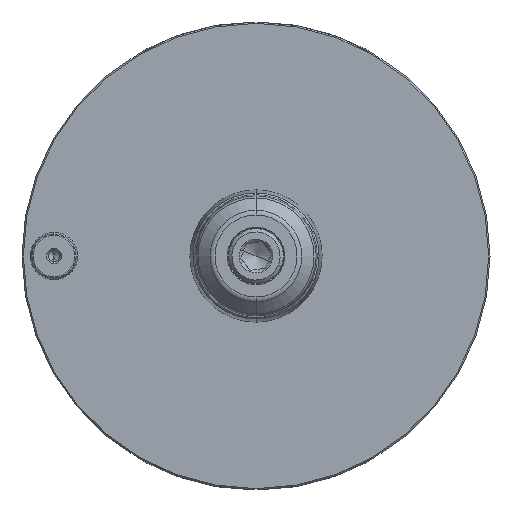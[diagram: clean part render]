
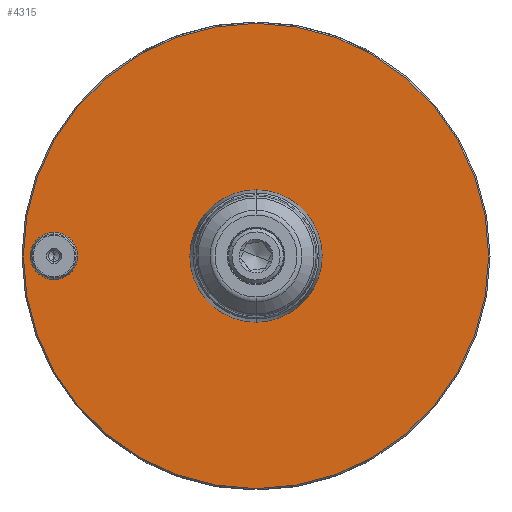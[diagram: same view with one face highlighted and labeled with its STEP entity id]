
A CAD part, left-side view. The second image highlights one B-rep face of the part: STEP entity #4315.
In plain terms, the highlighted planar face has unit normal (-1, 0, 0).
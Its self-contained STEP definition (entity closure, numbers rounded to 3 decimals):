
#216 = CARTESIAN_POINT ( 'NONE',  ( 0., 0., 68.998 ) ) ;
#258 = CARTESIAN_POINT ( 'NONE',  ( 0., 0.102, -69.1 ) ) ;
#592 = DIRECTION ( 'NONE',  ( 0., 0.707, 0.707 ) ) ;
#729 = AXIS2_PLACEMENT_3D ( 'NONE', #19136, #18935, #15881 ) ;
#746 = AXIS2_PLACEMENT_3D ( 'NONE', #2624, #19051, #6939 ) ;
#793 = VECTOR ( 'NONE', #10213, 1000. ) ;
#894 = VECTOR ( 'NONE', #592, 1000. ) ;
#1213 = DIRECTION ( 'NONE',  ( 0., 0., 1. ) ) ;
#1346 = CARTESIAN_POINT ( 'NONE',  ( 0., 60., 0. ) ) ;
#1354 = VERTEX_POINT ( 'NONE', #9269 ) ;
#1514 = DIRECTION ( 'NONE',  ( 0., 0., 1. ) ) ;
#1534 = EDGE_CURVE ( 'NONE', #6203, #4144, #10305, .T. ) ;
#2197 = VERTEX_POINT ( 'NONE', #11930 ) ;
#2284 = ORIENTED_EDGE ( 'NONE', *, *, #7296, .F. ) ;
#2374 = EDGE_CURVE ( 'NONE', #5693, #7685, #18501, .T. ) ;
#2624 = CARTESIAN_POINT ( 'NONE',  ( 0., 0., 0. ) ) ;
#2671 = ORIENTED_EDGE ( 'NONE', *, *, #12996, .T. ) ;
#2770 = DIRECTION ( 'NONE',  ( -1., 0., 0. ) ) ;
#3013 = VERTEX_POINT ( 'NONE', #6387 ) ;
#3060 = AXIS2_PLACEMENT_3D ( 'NONE', #13299, #2770, #1213 ) ;
#3451 = VECTOR ( 'NONE', #12498, 1000. ) ;
#3496 = DIRECTION ( 'NONE',  ( 0., -0.707, -0.707 ) ) ;
#3869 = VECTOR ( 'NONE', #3496, 1000. ) ;
#4144 = VERTEX_POINT ( 'NONE', #14017 ) ;
#4315 = ADVANCED_FACE ( 'NONE', ( #18609, #18815, #6704 ), #8094, .F. ) ;
#4440 = AXIS2_PLACEMENT_3D ( 'NONE', #19281, #12000, #16524 ) ;
#4862 = VERTEX_POINT ( 'NONE', #258 ) ;
#5693 = VERTEX_POINT ( 'NONE', #216 ) ;
#5725 = EDGE_CURVE ( 'NONE', #2197, #5693, #9538, .T. ) ;
#6203 = VERTEX_POINT ( 'NONE', #14683 ) ;
#6387 = CARTESIAN_POINT ( 'NONE',  ( 0., 0., -68.998 ) ) ;
#6615 = CARTESIAN_POINT ( 'NONE',  ( 0., 12.9, 0. ) ) ;
#6704 = FACE_OUTER_BOUND ( 'NONE', #14549, .T. ) ;
#6939 = DIRECTION ( 'NONE',  ( 0., 0., 1. ) ) ;
#7129 = CARTESIAN_POINT ( 'NONE',  ( 0., -0.102, -69.1 ) ) ;
#7296 = EDGE_CURVE ( 'NONE', #4144, #6203, #10048, .T. ) ;
#7324 = CIRCLE ( 'NONE', #14237, 6.4 ) ;
#7337 = CIRCLE ( 'NONE', #746, 69.1 ) ;
#7685 = VERTEX_POINT ( 'NONE', #11005 ) ;
#7846 = ORIENTED_EDGE ( 'NONE', *, *, #12213, .F. ) ;
#8094 = PLANE ( 'NONE',  #14116 ) ;
#8380 = DIRECTION ( 'NONE',  ( 0., 0., -1. ) ) ;
#8509 = VERTEX_POINT ( 'NONE', #7129 ) ;
#8982 = CARTESIAN_POINT ( 'NONE',  ( 0., 0., 0. ) ) ;
#9186 = LINE ( 'NONE', #18441, #3869 ) ;
#9269 = CARTESIAN_POINT ( 'NONE',  ( 0., 60., 6.4 ) ) ;
#9538 = LINE ( 'NONE', #13689, #3451 ) ;
#10044 = EDGE_CURVE ( 'NONE', #14831, #1354, #10712, .T. ) ;
#10048 = CIRCLE ( 'NONE', #11016, 12.9 ) ;
#10213 = DIRECTION ( 'NONE',  ( 0., -0.707, 0.707 ) ) ;
#10305 = CIRCLE ( 'NONE', #3060, 12.9 ) ;
#10664 = DIRECTION ( 'NONE',  ( -1., 0., 0. ) ) ;
#10712 = CIRCLE ( 'NONE', #4440, 6.4 ) ;
#11005 = CARTESIAN_POINT ( 'NONE',  ( 0., 0.102, 69.1 ) ) ;
#11016 = AXIS2_PLACEMENT_3D ( 'NONE', #8982, #14979, #1514 ) ;
#11418 = CIRCLE ( 'NONE', #729, 69.1 ) ;
#11592 = ORIENTED_EDGE ( 'NONE', *, *, #10044, .F. ) ;
#11705 = LINE ( 'NONE', #17416, #793 ) ;
#11930 = CARTESIAN_POINT ( 'NONE',  ( 0., -0.102, 69.1 ) ) ;
#12000 = DIRECTION ( 'NONE',  ( -1., 0., 0. ) ) ;
#12213 = EDGE_CURVE ( 'NONE', #1354, #14831, #7324, .T. ) ;
#12358 = EDGE_CURVE ( 'NONE', #7685, #4862, #11418, .T. ) ;
#12498 = DIRECTION ( 'NONE',  ( 0., 0.707, -0.707 ) ) ;
#12533 = CARTESIAN_POINT ( 'NONE',  ( 0., 60., -6.4 ) ) ;
#12834 = ORIENTED_EDGE ( 'NONE', *, *, #5725, .T. ) ;
#12996 = EDGE_CURVE ( 'NONE', #8509, #2197, #7337, .T. ) ;
#13299 = CARTESIAN_POINT ( 'NONE',  ( 0., 0., 0. ) ) ;
#13689 = CARTESIAN_POINT ( 'NONE',  ( 0., -5.375, 74.373 ) ) ;
#13998 = ORIENTED_EDGE ( 'NONE', *, *, #1534, .F. ) ;
#14017 = CARTESIAN_POINT ( 'NONE',  ( 0., 0., 12.9 ) ) ;
#14116 = AXIS2_PLACEMENT_3D ( 'NONE', #6615, #17250, #8380 ) ;
#14237 = AXIS2_PLACEMENT_3D ( 'NONE', #1346, #10664, #19348 ) ;
#14549 = EDGE_LOOP ( 'NONE', ( #14571, #2671, #12834, #17549, #18967, #15809 ) ) ;
#14571 = ORIENTED_EDGE ( 'NONE', *, *, #14780, .T. ) ;
#14683 = CARTESIAN_POINT ( 'NONE',  ( 0., 0., -12.9 ) ) ;
#14780 = EDGE_CURVE ( 'NONE', #3013, #8509, #9186, .T. ) ;
#14831 = VERTEX_POINT ( 'NONE', #12533 ) ;
#14979 = DIRECTION ( 'NONE',  ( -1., 0., 0. ) ) ;
#15809 = ORIENTED_EDGE ( 'NONE', *, *, #18781, .T. ) ;
#15881 = DIRECTION ( 'NONE',  ( 0., 0., 1. ) ) ;
#16000 = EDGE_LOOP ( 'NONE', ( #7846, #11592 ) ) ;
#16524 = DIRECTION ( 'NONE',  ( 0., 0., 1. ) ) ;
#16941 = CARTESIAN_POINT ( 'NONE',  ( 0., 0., 68.998 ) ) ;
#17250 = DIRECTION ( 'NONE',  ( 1., 0., 0. ) ) ;
#17374 = EDGE_LOOP ( 'NONE', ( #2284, #13998 ) ) ;
#17416 = CARTESIAN_POINT ( 'NONE',  ( 0., 0., -68.998 ) ) ;
#17549 = ORIENTED_EDGE ( 'NONE', *, *, #2374, .T. ) ;
#18441 = CARTESIAN_POINT ( 'NONE',  ( 0., -5.375, -74.373 ) ) ;
#18501 = LINE ( 'NONE', #16941, #894 ) ;
#18609 = FACE_BOUND ( 'NONE', #16000, .T. ) ;
#18781 = EDGE_CURVE ( 'NONE', #4862, #3013, #11705, .T. ) ;
#18815 = FACE_BOUND ( 'NONE', #17374, .T. ) ;
#18935 = DIRECTION ( 'NONE',  ( -1., 0., 0. ) ) ;
#18967 = ORIENTED_EDGE ( 'NONE', *, *, #12358, .T. ) ;
#19051 = DIRECTION ( 'NONE',  ( -1., 0., 0. ) ) ;
#19136 = CARTESIAN_POINT ( 'NONE',  ( 0., 0., 0. ) ) ;
#19281 = CARTESIAN_POINT ( 'NONE',  ( 0., 60., 0. ) ) ;
#19348 = DIRECTION ( 'NONE',  ( 0., 0., 1. ) ) ;
